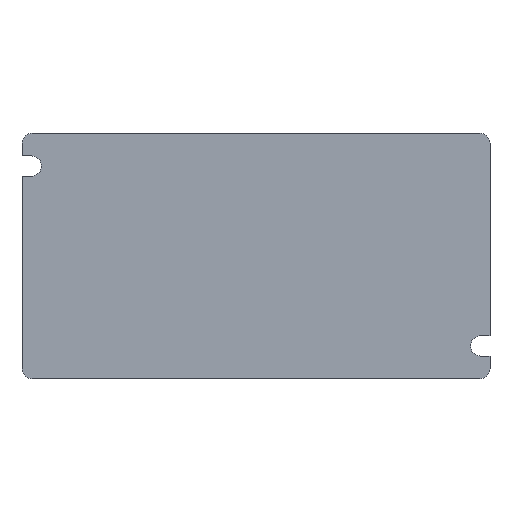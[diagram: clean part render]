
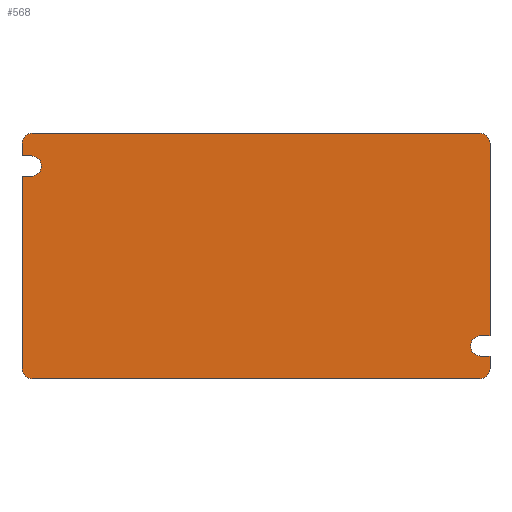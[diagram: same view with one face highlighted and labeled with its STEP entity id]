
A CAD part, front view. The second image highlights one B-rep face of the part: STEP entity #568.
In plain terms, the highlighted planar face has unit normal (0, -1, 0).
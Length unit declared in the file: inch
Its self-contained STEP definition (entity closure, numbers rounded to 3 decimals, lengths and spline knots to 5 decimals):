
#7 = ORIENTED_EDGE ( 'NONE', *, *, #471, .T. ) ;
#14 = ORIENTED_EDGE ( 'NONE', *, *, #1056, .F. ) ;
#20 = DIRECTION ( 'NONE',  ( 0., 0., -1. ) ) ;
#34 = CARTESIAN_POINT ( 'NONE',  ( -1.1, 0., 0.49 ) ) ;
#50 = ORIENTED_EDGE ( 'NONE', *, *, #233, .T. ) ;
#57 = VERTEX_POINT ( 'NONE', #75 ) ;
#61 = DIRECTION ( 'NONE',  ( 0., 1., 0. ) ) ;
#62 = ORIENTED_EDGE ( 'NONE', *, *, #745, .T. ) ;
#70 = ORIENTED_EDGE ( 'NONE', *, *, #910, .T. ) ;
#72 = EDGE_CURVE ( 'NONE', #1132, #489, #766, .T. ) ;
#75 = CARTESIAN_POINT ( 'NONE',  ( -1.145, 0., 0.39 ) ) ;
#77 = AXIS2_PLACEMENT_3D ( 'NONE', #881, #229, #326 ) ;
#92 = LINE ( 'NONE', #459, #975 ) ;
#108 = DIRECTION ( 'NONE',  ( 0., -1., 0. ) ) ;
#118 = VERTEX_POINT ( 'NONE', #1179 ) ;
#125 = LINE ( 'NONE', #669, #563 ) ;
#126 = CIRCLE ( 'NONE', #801, 0.05 ) ;
#132 = ORIENTED_EDGE ( 'NONE', *, *, #734, .T. ) ;
#133 = EDGE_CURVE ( 'NONE', #481, #473, #640, .T. ) ;
#144 = CARTESIAN_POINT ( 'NONE',  ( -1.145, 0., -0.6 ) ) ;
#147 = VECTOR ( 'NONE', #20, 39.37008 ) ;
#148 = CARTESIAN_POINT ( 'NONE',  ( -1.145, 0., 0.49 ) ) ;
#167 = CARTESIAN_POINT ( 'NONE',  ( -1.1, 0., 0.39 ) ) ;
#179 = DIRECTION ( 'NONE',  ( 1., 0., 0. ) ) ;
#182 = EDGE_CURVE ( 'NONE', #1015, #687, #92, .T. ) ;
#194 = EDGE_CURVE ( 'NONE', #1122, #1038, #126, .T. ) ;
#197 = ORIENTED_EDGE ( 'NONE', *, *, #1147, .T. ) ;
#224 = VECTOR ( 'NONE', #240, 39.37008 ) ;
#229 = DIRECTION ( 'NONE',  ( 0., -1., 0. ) ) ;
#233 = EDGE_CURVE ( 'NONE', #118, #57, #1010, .T. ) ;
#240 = DIRECTION ( 'NONE',  ( 1., 0., 0. ) ) ;
#274 = DIRECTION ( 'NONE',  ( 0., 0., 1. ) ) ;
#281 = AXIS2_PLACEMENT_3D ( 'NONE', #457, #551, #274 ) ;
#292 = EDGE_CURVE ( 'NONE', #1015, #499, #711, .T. ) ;
#308 = CARTESIAN_POINT ( 'NONE',  ( 1.095, 0., -0.6 ) ) ;
#323 = CIRCLE ( 'NONE', #1150, 0.05 ) ;
#326 = DIRECTION ( 'NONE',  ( 0., 0., 1. ) ) ;
#336 = VERTEX_POINT ( 'NONE', #308 ) ;
#348 = ORIENTED_EDGE ( 'NONE', *, *, #182, .F. ) ;
#353 = EDGE_CURVE ( 'NONE', #357, #936, #940, .T. ) ;
#357 = VERTEX_POINT ( 'NONE', #752 ) ;
#379 = EDGE_LOOP ( 'NONE', ( #428, #1155, #1149, #348, #1110, #197, #896, #132, #50, #7, #979, #727, #62, #14, #70, #624 ) ) ;
#381 = CARTESIAN_POINT ( 'NONE',  ( 1.145, 0., 0.6 ) ) ;
#428 = ORIENTED_EDGE ( 'NONE', *, *, #560, .T. ) ;
#443 = CIRCLE ( 'NONE', #77, 0.05 ) ;
#445 = DIRECTION ( 'NONE',  ( -1., 0., 0. ) ) ;
#457 = CARTESIAN_POINT ( 'NONE',  ( -1.095, 0., -0.55 ) ) ;
#459 = CARTESIAN_POINT ( 'NONE',  ( -1.145, 0., 0.6 ) ) ;
#471 = EDGE_CURVE ( 'NONE', #57, #1132, #706, .T. ) ;
#473 = VERTEX_POINT ( 'NONE', #34 ) ;
#481 = VERTEX_POINT ( 'NONE', #148 ) ;
#484 = CARTESIAN_POINT ( 'NONE',  ( -1.145, 0., 0.6 ) ) ;
#489 = VERTEX_POINT ( 'NONE', #875 ) ;
#499 = VERTEX_POINT ( 'NONE', #1157 ) ;
#535 = DIRECTION ( 'NONE',  ( 0., 0., 1. ) ) ;
#548 = CARTESIAN_POINT ( 'NONE',  ( 1.1, 0., -0.44 ) ) ;
#551 = DIRECTION ( 'NONE',  ( 0., -1., 0. ) ) ;
#560 = EDGE_CURVE ( 'NONE', #1038, #936, #733, .T. ) ;
#563 = VECTOR ( 'NONE', #574, 39.37008 ) ;
#568 = ADVANCED_FACE ( 'NONE', ( #1169 ), #986, .F. ) ;
#574 = DIRECTION ( 'NONE',  ( 0., 0., -1. ) ) ;
#579 = CARTESIAN_POINT ( 'NONE',  ( 1.1, 0., -0.39 ) ) ;
#598 = CIRCLE ( 'NONE', #873, 0.05 ) ;
#612 = AXIS2_PLACEMENT_3D ( 'NONE', #844, #108, #1021 ) ;
#613 = VERTEX_POINT ( 'NONE', #635 ) ;
#614 = DIRECTION ( 'NONE',  ( 0., 0., -1. ) ) ;
#615 = CARTESIAN_POINT ( 'NONE',  ( -1.1, 0., 0.44 ) ) ;
#624 = ORIENTED_EDGE ( 'NONE', *, *, #194, .T. ) ;
#635 = CARTESIAN_POINT ( 'NONE',  ( 1.145, 0., -0.55 ) ) ;
#640 = LINE ( 'NONE', #1006, #708 ) ;
#645 = CARTESIAN_POINT ( 'NONE',  ( 1.1, 0., -0.49 ) ) ;
#648 = DIRECTION ( 'NONE',  ( -1., 0., 0. ) ) ;
#661 = LINE ( 'NONE', #484, #664 ) ;
#664 = VECTOR ( 'NONE', #1041, 39.37008 ) ;
#669 = CARTESIAN_POINT ( 'NONE',  ( 1.145, 0., 0.6 ) ) ;
#672 = VERTEX_POINT ( 'NONE', #883 ) ;
#674 = CARTESIAN_POINT ( 'NONE',  ( 1.145, 0., -0.39 ) ) ;
#680 = CARTESIAN_POINT ( 'NONE',  ( 1.1, 0., -0.49 ) ) ;
#687 = VERTEX_POINT ( 'NONE', #1160 ) ;
#695 = EDGE_CURVE ( 'NONE', #489, #336, #971, .T. ) ;
#706 = LINE ( 'NONE', #1073, #1103 ) ;
#708 = VECTOR ( 'NONE', #179, 39.37008 ) ;
#711 = CIRCLE ( 'NONE', #612, 0.05 ) ;
#716 = CARTESIAN_POINT ( 'NONE',  ( 1.095, 0., -0.55 ) ) ;
#722 = DIRECTION ( 'NONE',  ( 1., 0., 0. ) ) ;
#727 = ORIENTED_EDGE ( 'NONE', *, *, #695, .T. ) ;
#733 = LINE ( 'NONE', #1089, #909 ) ;
#734 = EDGE_CURVE ( 'NONE', #473, #118, #323, .T. ) ;
#741 = LINE ( 'NONE', #645, #912 ) ;
#745 = EDGE_CURVE ( 'NONE', #336, #613, #598, .T. ) ;
#752 = CARTESIAN_POINT ( 'NONE',  ( 1.145, 0., 0.55 ) ) ;
#766 = CIRCLE ( 'NONE', #281, 0.05 ) ;
#800 = DIRECTION ( 'NONE',  ( 0., 0., 1. ) ) ;
#801 = AXIS2_PLACEMENT_3D ( 'NONE', #548, #1184, #1099 ) ;
#804 = AXIS2_PLACEMENT_3D ( 'NONE', #1007, #1096, #1002 ) ;
#813 = DIRECTION ( 'NONE',  ( 1., 0., 0. ) ) ;
#844 = CARTESIAN_POINT ( 'NONE',  ( -1.095, 0., 0.55 ) ) ;
#873 = AXIS2_PLACEMENT_3D ( 'NONE', #716, #999, #535 ) ;
#875 = CARTESIAN_POINT ( 'NONE',  ( -1.095, 0., -0.6 ) ) ;
#881 = CARTESIAN_POINT ( 'NONE',  ( 1.095, 0., 0.55 ) ) ;
#883 = CARTESIAN_POINT ( 'NONE',  ( 1.145, 0., -0.49 ) ) ;
#887 = CARTESIAN_POINT ( 'NONE',  ( -1.095, 0., 0.6 ) ) ;
#896 = ORIENTED_EDGE ( 'NONE', *, *, #133, .T. ) ;
#909 = VECTOR ( 'NONE', #722, 39.37008 ) ;
#910 = EDGE_CURVE ( 'NONE', #672, #1122, #741, .T. ) ;
#912 = VECTOR ( 'NONE', #445, 39.37008 ) ;
#936 = VERTEX_POINT ( 'NONE', #674 ) ;
#940 = LINE ( 'NONE', #381, #147 ) ;
#971 = LINE ( 'NONE', #144, #224 ) ;
#975 = VECTOR ( 'NONE', #813, 39.37008 ) ;
#977 = VECTOR ( 'NONE', #648, 39.37008 ) ;
#979 = ORIENTED_EDGE ( 'NONE', *, *, #72, .T. ) ;
#986 = PLANE ( 'NONE',  #804 ) ;
#999 = DIRECTION ( 'NONE',  ( 0., -1., 0. ) ) ;
#1002 = DIRECTION ( 'NONE',  ( 0., 0., 1. ) ) ;
#1006 = CARTESIAN_POINT ( 'NONE',  ( -1.1, 0., 0.49 ) ) ;
#1007 = CARTESIAN_POINT ( 'NONE',  ( -1.145, 0., 0.6 ) ) ;
#1010 = LINE ( 'NONE', #167, #977 ) ;
#1015 = VERTEX_POINT ( 'NONE', #887 ) ;
#1017 = EDGE_CURVE ( 'NONE', #357, #687, #443, .T. ) ;
#1021 = DIRECTION ( 'NONE',  ( 0., 0., 1. ) ) ;
#1038 = VERTEX_POINT ( 'NONE', #579 ) ;
#1041 = DIRECTION ( 'NONE',  ( 0., 0., -1. ) ) ;
#1056 = EDGE_CURVE ( 'NONE', #672, #613, #125, .T. ) ;
#1073 = CARTESIAN_POINT ( 'NONE',  ( -1.145, 0., 0.6 ) ) ;
#1089 = CARTESIAN_POINT ( 'NONE',  ( 1.1, 0., -0.39 ) ) ;
#1096 = DIRECTION ( 'NONE',  ( 0., 1., 0. ) ) ;
#1099 = DIRECTION ( 'NONE',  ( 0., 0., -1. ) ) ;
#1103 = VECTOR ( 'NONE', #614, 39.37008 ) ;
#1110 = ORIENTED_EDGE ( 'NONE', *, *, #292, .T. ) ;
#1122 = VERTEX_POINT ( 'NONE', #680 ) ;
#1127 = CARTESIAN_POINT ( 'NONE',  ( -1.145, 0., -0.55 ) ) ;
#1132 = VERTEX_POINT ( 'NONE', #1127 ) ;
#1147 = EDGE_CURVE ( 'NONE', #499, #481, #661, .T. ) ;
#1149 = ORIENTED_EDGE ( 'NONE', *, *, #1017, .T. ) ;
#1150 = AXIS2_PLACEMENT_3D ( 'NONE', #615, #61, #800 ) ;
#1155 = ORIENTED_EDGE ( 'NONE', *, *, #353, .F. ) ;
#1157 = CARTESIAN_POINT ( 'NONE',  ( -1.145, 0., 0.55 ) ) ;
#1160 = CARTESIAN_POINT ( 'NONE',  ( 1.095, 0., 0.6 ) ) ;
#1169 = FACE_OUTER_BOUND ( 'NONE', #379, .T. ) ;
#1179 = CARTESIAN_POINT ( 'NONE',  ( -1.1, 0., 0.39 ) ) ;
#1184 = DIRECTION ( 'NONE',  ( 0., 1., 0. ) ) ;
